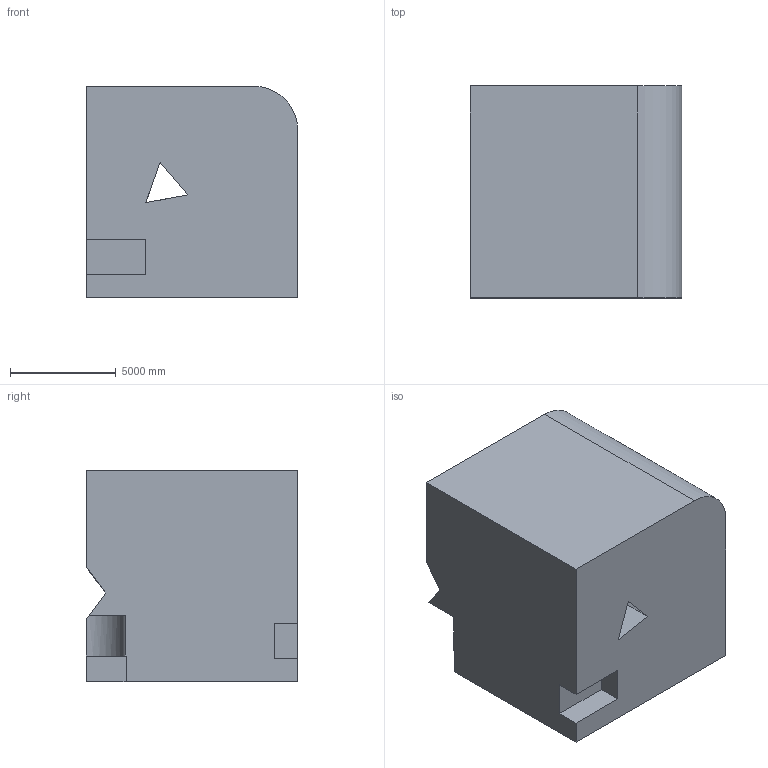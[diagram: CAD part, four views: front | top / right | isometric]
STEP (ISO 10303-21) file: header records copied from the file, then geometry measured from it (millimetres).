
FILE_DESCRIPTION (( 'STEP AP203' ), '1' );
FILE_NAME ('716.STEP', '2022-07-29T12:43:05', ( 'user' ), ( '' ), 'SwSTEP 2.0', 'SolidWorks 2021', '' );
FILE_SCHEMA (( 'CONFIG_CONTROL_DESIGN' ));
Length unit declared in the file: centimetre
Products named in the file (1): 716
Bounding box: 10000 x 10000 x 10000 mm (x, y, z)
Volume: 916284886027.5 mm3; surface area: 681766961.1 mm2
Topology: 1 solids, 1 shells, 33 faces, 102 edges, 68 vertices
Faces by surface type: plane 29, cylinder 4
Entity records: 1211 total; most frequent: CARTESIAN_POINT 219, ORIENTED_EDGE 204, DIRECTION 175, EDGE_CURVE 102, VECTOR 87, LINE 87, VERTEX_POINT 68, AXIS2_PLACEMENT_3D 44
